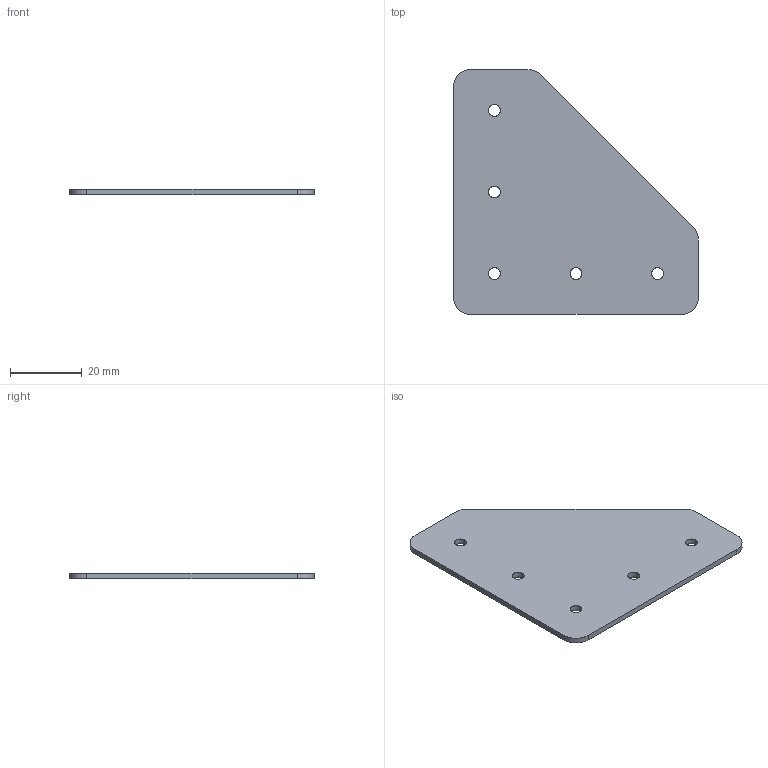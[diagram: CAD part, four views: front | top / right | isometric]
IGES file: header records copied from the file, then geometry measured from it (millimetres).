
Start section: SolidWorks IGES file using analytic representation for surfaces
Global section: file name: C:\Working\Gusset Convert\DRP-002-0003-03.igs; native system: SolidWorks 2010; preprocessor: SolidWorks 2010; author: mbush2; date: 100623.154108; units: inch
Bounding box: 68.2 x 68.2 x 1.59 mm (x, y, z)
Surface area: 7579.8 mm2 (no closed solid volume)
Topology: 0 solids, 0 shells, 22 faces, 474 edges, 474 vertices
Faces by surface type: revolution 15, bspline 7
